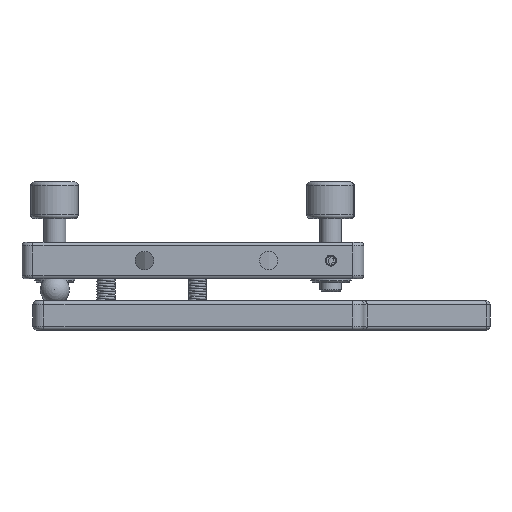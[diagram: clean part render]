
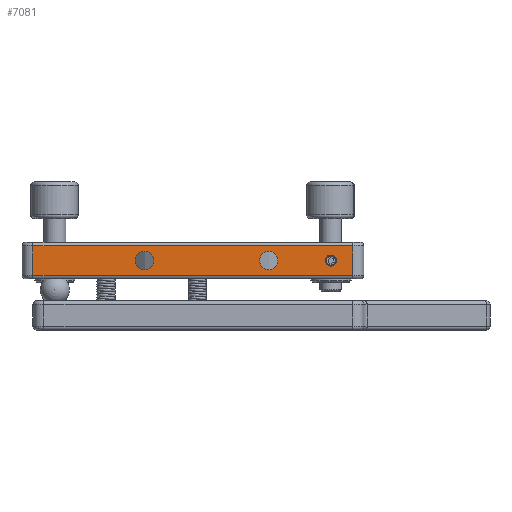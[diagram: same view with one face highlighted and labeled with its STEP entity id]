
A CAD part, front view. The second image highlights one B-rep face of the part: STEP entity #7081.
In plain terms, the highlighted planar face has unit normal (0, -1, 0).
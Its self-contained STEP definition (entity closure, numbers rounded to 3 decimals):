
#47 = CARTESIAN_POINT ( 'NONE',  ( 37.75, -46.75, 0. ) ) ;
#616 = VERTEX_POINT ( 'NONE', #14641 ) ;
#874 = VECTOR ( 'NONE', #5999, 1000. ) ;
#1165 = EDGE_LOOP ( 'NONE', ( #14766, #15214 ) ) ;
#1562 = DIRECTION ( 'NONE',  ( 0., 0., -1. ) ) ;
#1671 = CARTESIAN_POINT ( 'NONE',  ( 37.75, -46.75, 0. ) ) ;
#1739 = DIRECTION ( 'NONE',  ( 0., -1., 0. ) ) ;
#1961 = DIRECTION ( 'NONE',  ( 0., 0., -1. ) ) ;
#2138 = EDGE_CURVE ( 'NONE', #2508, #15150, #14207, .T. ) ;
#2338 = EDGE_CURVE ( 'NONE', #13888, #11580, #10052, .T. ) ;
#2508 = VERTEX_POINT ( 'NONE', #15833 ) ;
#2561 = ORIENTED_EDGE ( 'NONE', *, *, #8157, .F. ) ;
#2581 = VERTEX_POINT ( 'NONE', #11893 ) ;
#3962 = EDGE_LOOP ( 'NONE', ( #17698, #15454, #17043, #17912 ) ) ;
#3965 = CARTESIAN_POINT ( 'NONE',  ( -43.75, -46.75, 4. ) ) ;
#4604 = CARTESIAN_POINT ( 'NONE',  ( -13.25, -46.75, 0. ) ) ;
#4943 = LINE ( 'NONE', #17805, #6820 ) ;
#5654 = CARTESIAN_POINT ( 'NONE',  ( 43.75, -46.75, 4. ) ) ;
#5963 = DIRECTION ( 'NONE',  ( 0., 0., -1. ) ) ;
#5968 = CARTESIAN_POINT ( 'NONE',  ( -43.75, -46.75, 4. ) ) ;
#5999 = DIRECTION ( 'NONE',  ( 0., 0., 1. ) ) ;
#6087 = DIRECTION ( 'NONE',  ( 0., 0., -1. ) ) ;
#6243 = AXIS2_PLACEMENT_3D ( 'NONE', #47, #10383, #1562 ) ;
#6245 = VERTEX_POINT ( 'NONE', #3965 ) ;
#6444 = CARTESIAN_POINT ( 'NONE',  ( 43.75, -46.75, -4. ) ) ;
#6820 = VECTOR ( 'NONE', #7622, 1000. ) ;
#6852 = AXIS2_PLACEMENT_3D ( 'NONE', #7639, #7530, #7406 ) ;
#7081 = ADVANCED_FACE ( 'NONE', ( #8302, #7884, #16322, #8084 ), #16377, .F. ) ;
#7406 = DIRECTION ( 'NONE',  ( 0., 0., -1. ) ) ;
#7413 = EDGE_CURVE ( 'NONE', #11174, #8315, #16766, .T. ) ;
#7530 = DIRECTION ( 'NONE',  ( 0., -1., 0. ) ) ;
#7622 = DIRECTION ( 'NONE',  ( 1., 0., 0. ) ) ;
#7639 = CARTESIAN_POINT ( 'NONE',  ( 20.75, -46.75, 0. ) ) ;
#7670 = EDGE_CURVE ( 'NONE', #15150, #2508, #11191, .T. ) ;
#7884 = FACE_BOUND ( 'NONE', #1165, .T. ) ;
#7889 = EDGE_LOOP ( 'NONE', ( #17264, #15418 ) ) ;
#8084 = FACE_OUTER_BOUND ( 'NONE', #3962, .T. ) ;
#8125 = CARTESIAN_POINT ( 'NONE',  ( 43.75, -46.75, 5. ) ) ;
#8157 = EDGE_CURVE ( 'NONE', #8907, #2581, #11227, .T. ) ;
#8302 = FACE_BOUND ( 'NONE', #11958, .T. ) ;
#8315 = VERTEX_POINT ( 'NONE', #5654 ) ;
#8907 = VERTEX_POINT ( 'NONE', #12094 ) ;
#9531 = DIRECTION ( 'NONE',  ( 0., 0., -1. ) ) ;
#9934 = EDGE_CURVE ( 'NONE', #11580, #13888, #17547, .T. ) ;
#10052 = CIRCLE ( 'NONE', #15574, 2.5 ) ;
#10383 = DIRECTION ( 'NONE',  ( 0., -1., 0. ) ) ;
#10545 = EDGE_CURVE ( 'NONE', #6245, #616, #16600, .T. ) ;
#10907 = CARTESIAN_POINT ( 'NONE',  ( 20.75, -46.75, -2.5 ) ) ;
#11076 = LINE ( 'NONE', #5968, #14566 ) ;
#11174 = VERTEX_POINT ( 'NONE', #6444 ) ;
#11191 = CIRCLE ( 'NONE', #17097, 2.5 ) ;
#11227 = CIRCLE ( 'NONE', #15360, 1.25 ) ;
#11259 = CARTESIAN_POINT ( 'NONE',  ( -13.25, -46.75, 2.5 ) ) ;
#11580 = VERTEX_POINT ( 'NONE', #14087 ) ;
#11759 = DIRECTION ( 'NONE',  ( 0., 0., -1. ) ) ;
#11893 = CARTESIAN_POINT ( 'NONE',  ( 37.75, -46.75, 1.25 ) ) ;
#11922 = AXIS2_PLACEMENT_3D ( 'NONE', #4604, #14870, #6087 ) ;
#11958 = EDGE_LOOP ( 'NONE', ( #2561, #18295 ) ) ;
#11968 = CARTESIAN_POINT ( 'NONE',  ( 20.75, -46.75, 0. ) ) ;
#12067 = DIRECTION ( 'NONE',  ( 0., -1., 0. ) ) ;
#12094 = CARTESIAN_POINT ( 'NONE',  ( 37.75, -46.75, -1.25 ) ) ;
#12129 = EDGE_CURVE ( 'NONE', #8315, #6245, #11076, .T. ) ;
#12157 = EDGE_CURVE ( 'NONE', #2581, #8907, #15050, .T. ) ;
#12927 = DIRECTION ( 'NONE',  ( 0., -1., 0. ) ) ;
#13327 = EDGE_CURVE ( 'NONE', #616, #11174, #4943, .T. ) ;
#13888 = VERTEX_POINT ( 'NONE', #11259 ) ;
#14087 = CARTESIAN_POINT ( 'NONE',  ( -13.25, -46.75, -2.5 ) ) ;
#14207 = CIRCLE ( 'NONE', #6852, 2.5 ) ;
#14566 = VECTOR ( 'NONE', #16224, 1000. ) ;
#14641 = CARTESIAN_POINT ( 'NONE',  ( -43.75, -46.75, -4. ) ) ;
#14766 = ORIENTED_EDGE ( 'NONE', *, *, #9934, .F. ) ;
#14870 = DIRECTION ( 'NONE',  ( 0., -1., 0. ) ) ;
#15050 = CIRCLE ( 'NONE', #6243, 1.25 ) ;
#15150 = VERTEX_POINT ( 'NONE', #10907 ) ;
#15214 = ORIENTED_EDGE ( 'NONE', *, *, #2338, .F. ) ;
#15311 = CARTESIAN_POINT ( 'NONE',  ( -43.75, -46.75, 5. ) ) ;
#15360 = AXIS2_PLACEMENT_3D ( 'NONE', #1671, #1739, #1961 ) ;
#15410 = DIRECTION ( 'NONE',  ( -1., 0., 0. ) ) ;
#15418 = ORIENTED_EDGE ( 'NONE', *, *, #2138, .F. ) ;
#15454 = ORIENTED_EDGE ( 'NONE', *, *, #12129, .T. ) ;
#15482 = CARTESIAN_POINT ( 'NONE',  ( -13.25, -46.75, 0. ) ) ;
#15574 = AXIS2_PLACEMENT_3D ( 'NONE', #15482, #12927, #5963 ) ;
#15833 = CARTESIAN_POINT ( 'NONE',  ( 20.75, -46.75, 2.5 ) ) ;
#16224 = DIRECTION ( 'NONE',  ( -1., 0., 0. ) ) ;
#16243 = VECTOR ( 'NONE', #9531, 1000. ) ;
#16322 = FACE_BOUND ( 'NONE', #7889, .T. ) ;
#16377 = PLANE ( 'NONE',  #18768 ) ;
#16418 = CARTESIAN_POINT ( 'NONE',  ( 46.75, -46.75, 5. ) ) ;
#16564 = DIRECTION ( 'NONE',  ( 0., 1., 0. ) ) ;
#16600 = LINE ( 'NONE', #15311, #16243 ) ;
#16766 = LINE ( 'NONE', #8125, #874 ) ;
#17043 = ORIENTED_EDGE ( 'NONE', *, *, #10545, .T. ) ;
#17097 = AXIS2_PLACEMENT_3D ( 'NONE', #11968, #12067, #11759 ) ;
#17264 = ORIENTED_EDGE ( 'NONE', *, *, #7670, .F. ) ;
#17547 = CIRCLE ( 'NONE', #11922, 2.5 ) ;
#17698 = ORIENTED_EDGE ( 'NONE', *, *, #7413, .T. ) ;
#17805 = CARTESIAN_POINT ( 'NONE',  ( 46.75, -46.75, -4. ) ) ;
#17912 = ORIENTED_EDGE ( 'NONE', *, *, #13327, .T. ) ;
#18295 = ORIENTED_EDGE ( 'NONE', *, *, #12157, .F. ) ;
#18768 = AXIS2_PLACEMENT_3D ( 'NONE', #16418, #16564, #15410 ) ;
